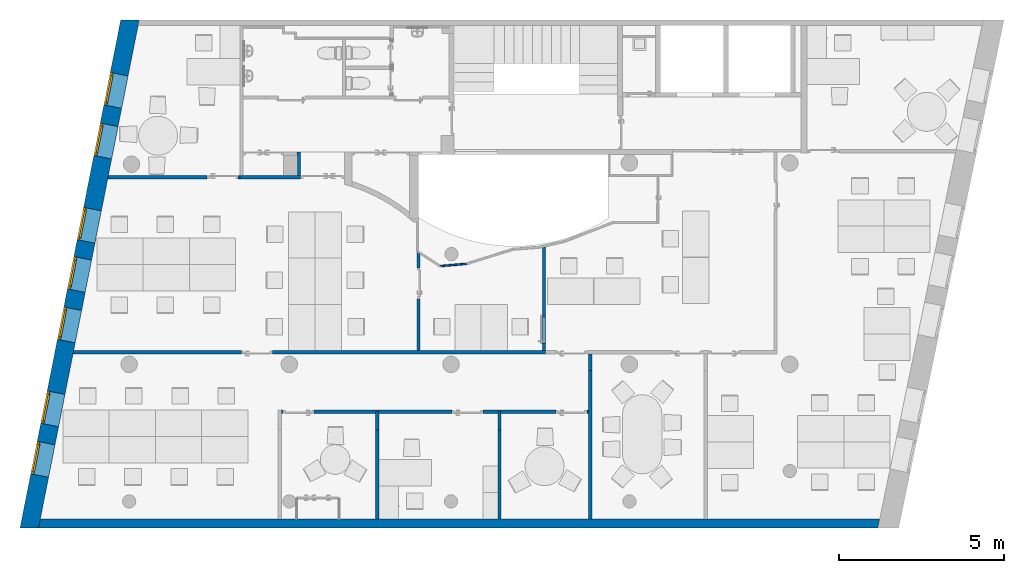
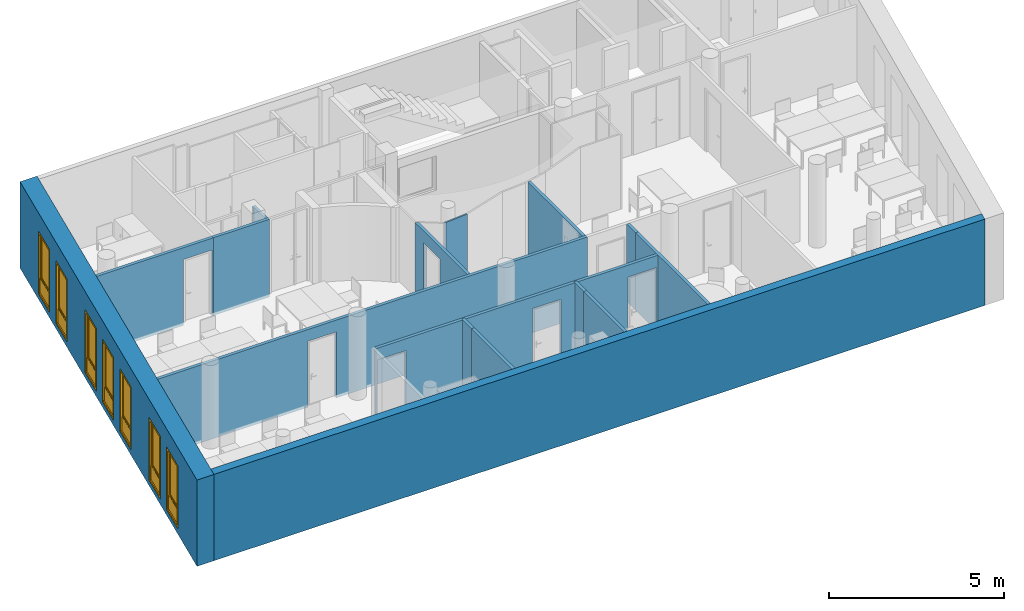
"""IFC4 building model written with IfcOpenShell, lengths in metres."""

from ifc_helpers import new_model, entity, si_unit, converted_unit, derived_unit, frame, frame_2d, origin, origin_with_axes, place, context, subcontext, project, spatial, polyline, rectangle, outline, extrude, closed_shell, open_shell, surface_model, source, transform, mapped, material, layer, layer_set, layer_usage, type_object, element, fill, save


model = new_model("IFC4")

# Units and contexts
model_context = context("Model", 3, precision=1e-05, world=origin())
body_context = subcontext(model_context, "Body", "Model", "MODEL_VIEW")
ifc_project = project(units=[si_unit("LENGTHUNIT", "METRE"), si_unit("AREAUNIT", "SQUARE_METRE"), si_unit("VOLUMEUNIT", "CUBIC_METRE"), si_unit("MASSUNIT", "GRAM", prefix="KILO"), converted_unit("PLANEANGLEUNIT", "DEGREE", entity("IfcPlaneAngleMeasure", 0.0174532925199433), si_unit("PLANEANGLEUNIT", "RADIAN"), dimensions=[0, 0, 0, 0, 0, 0, 0]), derived_unit("THERMALTRANSMITTANCEUNIT", [(si_unit("POWERUNIT", "WATT"), 1), (si_unit("THERMODYNAMICTEMPERATUREUNIT", "KELVIN"), -1), (si_unit("LENGTHUNIT", "METRE"), -2)]), derived_unit("VOLUMETRICFLOWRATEUNIT", [(si_unit("LENGTHUNIT", "METRE"), 3), (converted_unit("TIMEUNIT", "hour", entity("IfcTimeMeasure", 3600.0), si_unit("TIMEUNIT", "SECOND"), dimensions=[0, 0, 1, 0, 0, 0, 0]), -1), (si_unit("LENGTHUNIT", "METRE"), -1)])], contexts=[model_context])

# Building, storeys
building_placement = place(None, origin())
building = spatial("IfcBuilding", under=ifc_project, at=building_placement, Name="HABITATGE PLURIFAMILIAR", CompositionType="ELEMENT")
storey_1_placement = place(building_placement, frame((0.0, 0.0, 9.26)))
storey_1 = spatial("IfcBuildingStorey", under=building, at=storey_1_placement, Name="PLANTA SEGONA", CompositionType="ELEMENT", Elevation=9.26)
storey_2_placement = place(storey_1_placement, frame((0.0, 0.0, 6.25)))
storey_2 = spatial("IfcBuildingStorey", under=storey_1, at=storey_2_placement, Name="NOU", CompositionType="PARTIAL")

# Wall
ifc_material_1 = material()
ifc_layer_1 = layer(ifc_material_1, 0.10181412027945)
ifc_layer_set_1 = layer_set([ifc_layer_1])
ifc_layer_usage_1 = layer_usage(ifc_layer_set_1, "AXIS2", "POSITIVE", 0.0)
wall_1_placement = place(storey_2_placement, frame((406.176984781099, 23.5194598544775, -6.35), z_axis=(0.0, 0.0, 1.0), x_axis=(0.0, 1.0, 0.0)))
element("IfcWall", 1, at=wall_1_placement, inside=storey_2, material=ifc_layer_usage_1, Name="Evans P2", context=body_context, shape_type="SweptSolid", body=[
    extrude(outline(polyline([(0.0, -0.10181412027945), (0.709999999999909, -0.10181412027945), (0.709999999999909, 0.0), (0.625804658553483, -0.00181412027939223), (0.625804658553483, -0.0152980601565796), (0.0, -0.0152980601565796), (0.0, -0.10181412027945)])), frame((0.0, 0.10181412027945, 0.0), z_axis=(0.0, 0.0, 1.0), x_axis=(1.0, 0.0, 0.0)), (0.0, 0.0, 1.0), 2.71),
])

# Wall, opening
ifc_material_2 = material()
ifc_layer_2 = layer(ifc_material_2, 0.1)
ifc_layer_set_2 = layer_set([ifc_layer_2])
ifc_layer_usage_2 = layer_usage(ifc_layer_set_2, "AXIS2", "POSITIVE", 0.0)
wall_2_placement = place(storey_2_placement, frame((404.336984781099, 23.4194598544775, -6.35)))
wall_2 = element("IfcWall", 2, at=wall_2_placement, inside=storey_2, material=ifc_layer_usage_2, Name="Evans P2", context=body_context, shape_type="SweptSolid", body=[
    extrude(rectangle(XDim=3.17, YDim=0.1, at=frame_2d((1.585, 0.05), x_axis=(1.0, 0.0))), origin_with_axes(), (0.0, 0.0, 1.0), 2.71),
])
opening_1_placement = place(wall_2_placement, frame((1.84, 0.0, 0.0), z_axis=(0.0, 1.0, 0.0), x_axis=(0.0, 0.0, 1.0)))
element("IfcOpeningElement", 3, at=opening_1_placement, cuts=wall_2, Name="Vano puerta", ObjectType="Opening", context=body_context, shape_type="SweptSolid", body=[
    extrude(outline(polyline([(2.71, 1.33), (2.71, 0.0), (0.0, 0.0), (0.0, 1.33), (2.71, 1.33)])), origin_with_axes(), (0.0, 0.0, 1.0), 0.1),
])

# Walls
ifc_material_3 = material()
ifc_layer_3 = layer(ifc_material_3, 0.0499999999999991)
ifc_layer_set_3 = layer_set([ifc_layer_3])
ifc_layer_usage_3 = layer_usage(ifc_layer_set_3, "AXIS2", "POSITIVE", 0.0)
wall_3_placement = place(storey_2_placement, frame((410.466214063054, 20.756298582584, -6.35), z_axis=(0.0, 0.0, 1.0), x_axis=(0.99634967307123, 0.0853658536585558, 0.0)))
element("IfcWall", 4, at=wall_3_placement, inside=storey_2, material=ifc_layer_usage_3, Name="Mampara P2", context=body_context, shape_type="SweptSolid", body=[
    extrude(outline(polyline([(0.0663873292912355, -0.00568797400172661), (0.806276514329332, -0.00568797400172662), (0.800775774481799, 0.0443120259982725), (0.00379659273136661, 0.0443120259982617), (0.0663873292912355, -0.00568797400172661)])), frame((-0.0663873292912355, 0.00568797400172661, 0.0), z_axis=(0.0, 0.0, 1.0), x_axis=(1.0, 0.0, 0.0)), (0.0, 0.0, 1.0), 2.71),
])
ifc_material_4 = material()
ifc_layer_4 = layer(ifc_material_4, 0.28)
ifc_layer_set_4 = layer_set([ifc_layer_4])
ifc_layer_usage_4 = layer_usage(ifc_layer_set_4, "AXIS2", "POSITIVE", 0.0)
wall_4_placement = place(storey_2_placement, frame((398.24166797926, 12.8406121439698, -6.35)))
element("IfcWall", 5, at=wall_4_placement, inside=storey_2, material=ifc_layer_usage_4, Name="Mur P2", context=body_context, shape_type="SweptSolid", body=[
    extrude(outline(polyline([(0.0, 0.0), (25.4158141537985, 0.0), (25.4738412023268, 0.28), (0.0554765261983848, 0.28), (0.0, 0.0)])), origin_with_axes(), (0.0, 0.0, 1.0), 3.01),
])

# Wall, openings, doors
ifc_material_5 = material()
ifc_layer_5 = layer(ifc_material_5, 0.550000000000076)
ifc_layer_set_5 = layer_set([ifc_layer_5])
ifc_layer_usage_5 = layer_usage(ifc_layer_set_5, "AXIS2", "POSITIVE", 0.0)
wall_5_placement = place(storey_2_placement, frame((400.729735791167, 28.22824790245, -6.35), z_axis=(0.0, 0.0, 1.0), x_axis=(-0.194352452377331, -0.980931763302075, 0.0)))
wall_5 = element("IfcWall", 6, at=wall_5_placement, inside=storey_2, material=ifc_layer_usage_5, Name="Façana nord-oest P2", context=body_context, shape_type="SweptSolid", body=[
    extrude(outline(polyline([(-15.6867545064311, 0.0), (0.0, 0.0), (-0.108971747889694, 0.550000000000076), (-15.7957262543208, 0.549999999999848), (-15.6867545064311, 0.0)])), frame((15.6867545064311, 0.0, 0.0), z_axis=(0.0, 0.0, 1.0), x_axis=(1.0, 0.0, 0.0)), (0.0, 0.0, 1.0), 3.01),
])
opening_2_placement = place(wall_5_placement, frame((13.0068416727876, 0.0, 0.19), z_axis=(-9.9217603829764e-15, 1.0, 0.0), x_axis=(0.0, 0.0, 1.0)))
opening_2 = element("IfcOpeningElement", 7, at=opening_2_placement, cuts=wall_5, Name="Vano finestra P2", ObjectType="Opening", context=body_context, shape_type="SweptSolid", body=[
    extrude(outline(polyline([(2.19, 0.999999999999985), (2.19, 0.0), (0.0, 0.0), (0.0, 0.999999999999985), (2.19, 0.999999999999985)])), origin_with_axes(), (0.0, 0.0, 1.0), 0.550000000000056),
])
opening_3_placement = place(wall_5_placement, frame((11.4489821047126, 0.0, 0.19), z_axis=(-3.30725346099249e-15, 1.0, 0.0), x_axis=(0.0, 0.0, 1.0)))
opening_3 = element("IfcOpeningElement", 8, at=opening_3_placement, cuts=wall_5, Name="Vano finestra P2", ObjectType="Opening", context=body_context, shape_type="SweptSolid", body=[
    extrude(outline(polyline([(2.19, 0.999999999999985), (2.19, 0.0), (0.0, 0.0), (0.0, 0.999999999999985), (2.19, 0.999999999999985)])), origin_with_axes(), (0.0, 0.0, 1.0), 0.549999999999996),
])
opening_4_placement = place(wall_5_placement, frame((3.18033368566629, 0.0, 0.19), z_axis=(-8.26813365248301e-15, 1.0, 0.0), x_axis=(0.0, 0.0, 1.0)))
opening_4 = element("IfcOpeningElement", 9, at=opening_4_placement, cuts=wall_5, Name="Vano finestra P2", ObjectType="Opening", context=body_context, shape_type="SweptSolid", body=[
    extrude(outline(polyline([(2.19, 1.0), (2.19, 0.0), (0.0, 0.0), (0.0, 1.0), (2.19, 1.0)])), origin_with_axes(), (0.0, 0.0, 1.0), 0.549999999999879),
])
opening_5_placement = place(wall_5_placement, frame((8.85969008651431, 0.0, 0.19), z_axis=(-3.30725346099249e-15, 1.0, 0.0), x_axis=(0.0, 0.0, 1.0)))
opening_5 = element("IfcOpeningElement", 10, at=opening_5_placement, cuts=wall_5, Name="Vano finestra P2", ObjectType="Opening", context=body_context, shape_type="SweptSolid", body=[
    extrude(outline(polyline([(2.19, 1.0), (2.19, 0.0), (0.0, 0.0), (0.0, 1.0), (2.19, 1.0)])), origin_with_axes(), (0.0, 0.0, 1.0), 0.549999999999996),
])
opening_6_placement = place(wall_5_placement, frame((5.78205453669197, 0.0, 0.19), z_axis=(-1.6536267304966e-15, 1.0, 0.0), x_axis=(0.0, 0.0, 1.0)))
opening_6 = element("IfcOpeningElement", 11, at=opening_6_placement, cuts=wall_5, Name="Vano finestra P2", ObjectType="Opening", context=body_context, shape_type="SweptSolid", body=[
    extrude(outline(polyline([(2.19, 0.999999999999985), (2.19, 0.0), (0.0, 0.0), (0.0, 0.999999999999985), (2.19, 0.999999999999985)])), origin_with_axes(), (0.0, 0.0, 1.0), 0.549999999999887),
])
opening_7_placement = place(wall_5_placement, frame((1.61873293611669, 0.0, 0.19), z_axis=(-9.50835370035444e-15, 1.0, 0.0), x_axis=(0.0, 0.0, 1.0)))
opening_7 = element("IfcOpeningElement", 12, at=opening_7_placement, cuts=wall_5, Name="Vano finestra P2", ObjectType="Opening", context=body_context, shape_type="SweptSolid", body=[
    extrude(outline(polyline([(2.19, 1.0), (2.19, 0.0), (0.0, 0.0), (0.0, 1.0), (2.19, 1.0)])), origin_with_axes(), (0.0, 0.0, 1.0), 0.549999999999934),
])
opening_8_placement = place(wall_5_placement, frame((7.30183051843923, 0.0, 0.19), z_axis=(-3.30725346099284e-15, 1.0, 0.0), x_axis=(0.0, 0.0, 1.0)))
opening_8 = element("IfcOpeningElement", 13, at=opening_8_placement, cuts=wall_5, Name="Vano finestra P2", ObjectType="Opening", context=body_context, shape_type="SweptSolid", body=[
    extrude(outline(polyline([(2.19, 1.0), (2.19, 0.0), (0.0, 0.0), (0.0, 1.0), (2.19, 1.0)])), origin_with_axes(), (0.0, 0.0, 1.0), 0.549999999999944),
])
door_type_1 = type_object("IfcDoorType", Name="Finestra P2", OperationType="NOTDEFINED", ParameterTakesPrecedence=False, PredefinedType="DOOR")
shared_shape = source(origin_with_axes(), body_context, "Body", "SurfaceModel", [
    surface_model("IfcShellBasedSurfaceModel", [(0.0, 0.0700000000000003, 2.19), (0.0, 0.07, 0.0), (0.07, 0.07, 0.0), (0.07, 0.0700000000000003, 2.19), (0.0, 0.0, 0.0), (0.0, 0.0, 2.19), (0.07, 0.0, 2.19), (0.07, 0.0, 0.0)], [closed_shell([[[0, 1, 2, 3]], [[4, 5, 6, 7]], [[1, 0, 5, 4]], [[2, 1, 4, 7]], [[3, 2, 7, 6]], [[0, 3, 6, 5]]], orient=[[False], [False], [False], [False], [False], [False]])]),
    surface_model("IfcShellBasedSurfaceModel", [(0.929999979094, 0.0700000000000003, 2.19), (0.929999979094, 0.07, 0.0), (0.999999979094, 0.07, 0.0), (0.999999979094, 0.0700000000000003, 2.19), (0.929999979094, 0.0, 0.0), (0.929999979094, 0.0, 2.19), (0.999999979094, 0.0, 2.19), (0.999999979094, 0.0, 0.0)], [closed_shell([[[0, 1, 2, 3]], [[4, 5, 6, 7]], [[1, 0, 5, 4]], [[2, 1, 4, 7]], [[3, 2, 7, 6]], [[0, 3, 6, 5]]], orient=[[False], [False], [False], [False], [False], [False]])]),
    surface_model("IfcShellBasedSurfaceModel", [(0.07, 0.07, 0.07), (0.07, 0.07, 0.0), (0.929999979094, 0.07, 0.0), (0.929999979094, 0.07, 0.07), (0.07, 0.0, 0.0), (0.07, 0.0, 0.07), (0.929999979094, 0.0, 0.07), (0.929999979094, 0.0, 0.0)], [closed_shell([[[0, 1, 2, 3]], [[4, 5, 6, 7]], [[1, 0, 5, 4]], [[2, 1, 4, 7]], [[3, 2, 7, 6]], [[0, 3, 6, 5]]], orient=[[False], [False], [False], [False], [False], [False]])]),
    surface_model("IfcShellBasedSurfaceModel", [(0.07, 0.0700000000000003, 2.19), (0.07, 0.0700000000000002, 2.12), (0.929999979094, 0.0700000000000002, 2.12), (0.929999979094, 0.0700000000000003, 2.19), (0.07, 0.0, 2.12), (0.07, 0.0, 2.19), (0.929999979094, 0.0, 2.19), (0.929999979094, 0.0, 2.12)], [closed_shell([[[0, 1, 2, 3]], [[4, 5, 6, 7]], [[1, 0, 5, 4]], [[2, 1, 4, 7]], [[3, 2, 7, 6]], [[0, 3, 6, 5]]], orient=[[False], [False], [False], [False], [False], [False]])]),
    surface_model("IfcShellBasedSurfaceModel", [(0.07, 0.035, 0.07), (0.929999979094, 0.035, 0.07), (0.929999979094, 0.0350000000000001, 0.57), (0.07, 0.0350000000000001, 0.57)], [open_shell([[[0, 1, 2, 3]]], orient=[[False]])]),
    surface_model("IfcShellBasedSurfaceModel", [(0.05, 0.1, 2.14), (0.05, 0.1, 0.551), (0.1, 0.1, 0.551), (0.1, 0.1, 2.14), (0.05, 0.0500000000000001, 0.551), (0.05, 0.0500000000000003, 2.14), (0.1, 0.0500000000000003, 2.14), (0.1, 0.0500000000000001, 0.551)], [closed_shell([[[0, 1, 2, 3]], [[4, 5, 6, 7]], [[1, 0, 5, 4]], [[2, 1, 4, 7]], [[3, 2, 7, 6]], [[0, 3, 6, 5]]], orient=[[False], [False], [False], [False], [False], [False]])]),
    surface_model("IfcShellBasedSurfaceModel", [(0.899999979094, 0.1, 2.14), (0.899999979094, 0.1, 0.551), (0.949999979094, 0.1, 0.551), (0.949999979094, 0.1, 2.14), (0.899999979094, 0.0500000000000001, 0.551), (0.899999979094, 0.0500000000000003, 2.14), (0.949999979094, 0.0500000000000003, 2.14), (0.949999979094, 0.0500000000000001, 0.551)], [closed_shell([[[0, 1, 2, 3]], [[4, 5, 6, 7]], [[1, 0, 5, 4]], [[2, 1, 4, 7]], [[3, 2, 7, 6]], [[0, 3, 6, 5]]], orient=[[False], [False], [False], [False], [False], [False]])]),
    surface_model("IfcShellBasedSurfaceModel", [(0.1, 0.1, 0.601), (0.1, 0.1, 0.551), (0.899999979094, 0.1, 0.551), (0.899999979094, 0.1, 0.601), (0.1, 0.0500000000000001, 0.551), (0.1, 0.0500000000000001, 0.601), (0.899999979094, 0.0500000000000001, 0.601), (0.899999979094, 0.0500000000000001, 0.551)], [closed_shell([[[0, 1, 2, 3]], [[4, 5, 6, 7]], [[1, 0, 5, 4]], [[2, 1, 4, 7]], [[3, 2, 7, 6]], [[0, 3, 6, 5]]], orient=[[False], [False], [False], [False], [False], [False]])]),
    surface_model("IfcShellBasedSurfaceModel", [(0.1, 0.1, 2.14), (0.1, 0.1, 2.09), (0.899999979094, 0.1, 2.09), (0.899999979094, 0.1, 2.14), (0.1, 0.0500000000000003, 2.09), (0.1, 0.0500000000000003, 2.14), (0.899999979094, 0.0500000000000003, 2.14), (0.899999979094, 0.0500000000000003, 2.09)], [closed_shell([[[0, 1, 2, 3]], [[4, 5, 6, 7]], [[1, 0, 5, 4]], [[2, 1, 4, 7]], [[3, 2, 7, 6]], [[0, 3, 6, 5]]], orient=[[False], [False], [False], [False], [False], [False]])]),
    surface_model("IfcShellBasedSurfaceModel", [(0.1, 0.0750000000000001, 0.601), (0.899999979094, 0.0750000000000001, 0.601), (0.899999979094, 0.0750000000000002, 2.09), (0.1, 0.0750000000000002, 2.09)], [open_shell([[[0, 1, 2, 3]]], orient=[[False]])]),
])
door_1_placement = place(opening_2_placement, frame((0.0, 0.0, 0.0), z_axis=(1.0, 0.0, 0.0), x_axis=(0.0, 1.00000002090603, -5.77315972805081e-14)))
door_1 = element("IfcDoor", 14, at=door_1_placement, inside=storey_2, type_object=door_type_1, Name="Finestra P2", OverallHeight=2.19, OverallWidth=1.0, context=body_context, shape_type="MappedRepresentation", body=[
    mapped(shared_shape, transform((0.0, 0.0, 0.0), x_axis=(1.0, 0.0, 0.0), y_axis=(0.0, 1.0, 0.0), z_axis=(0.0, 0.0, 1.0), scale=1.00000002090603)),
])
fill(opening_2, door_1)
door_type_2 = type_object("IfcDoorType", Name="Finestra P2", OperationType="NOTDEFINED", ParameterTakesPrecedence=False, PredefinedType="DOOR")
door_2_placement = place(opening_3_placement, frame((0.0, 0.0, 0.0), z_axis=(1.0, 0.0, 0.0), x_axis=(0.0, 1.00000002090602, 3.94129173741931e-15)))
door_2 = element("IfcDoor", 15, at=door_2_placement, inside=storey_2, type_object=door_type_2, Name="Finestra P2", OverallHeight=2.19, OverallWidth=1.0, context=body_context, shape_type="MappedRepresentation", body=[
    mapped(shared_shape, transform((0.0, 0.0, 0.0), x_axis=(1.0, 0.0, 0.0), y_axis=(0.0, 1.0, 0.0), z_axis=(0.0, 0.0, 1.0), scale=1.00000002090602)),
])
fill(opening_3, door_2)
door_type_3 = type_object("IfcDoorType", Name="Finestra P2", OperationType="NOTDEFINED", ParameterTakesPrecedence=False, PredefinedType="DOOR")
door_3_placement = place(opening_4_placement, frame((0.0, 0.0, 0.0), z_axis=(1.0, 0.0, 0.0), x_axis=(0.0, 1.000000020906, -8.32667268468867e-17)))
door_3 = element("IfcDoor", 16, at=door_3_placement, inside=storey_2, type_object=door_type_3, Name="Finestra P2", OverallHeight=2.19, OverallWidth=1.0, context=body_context, shape_type="MappedRepresentation", body=[
    mapped(shared_shape, transform((0.0, 0.0, 0.0), x_axis=(1.0, 0.0, 0.0), y_axis=(0.0, 1.0, 0.0), z_axis=(0.0, 0.0, 1.0), scale=1.000000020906)),
])
fill(opening_4, door_3)
door_type_4 = type_object("IfcDoorType", Name="Finestra P2", OperationType="NOTDEFINED", ParameterTakesPrecedence=False, PredefinedType="DOOR")
door_4_placement = place(opening_5_placement, frame((0.0, 0.0, 0.0), z_axis=(1.0, 0.0, 0.0), x_axis=(0.0, 1.00000002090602, 4.85722573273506e-15)))
door_4 = element("IfcDoor", 17, at=door_4_placement, inside=storey_2, type_object=door_type_4, Name="Finestra P2", OverallHeight=2.19, OverallWidth=1.0, context=body_context, shape_type="MappedRepresentation", body=[
    mapped(shared_shape, transform((0.0, 0.0, 0.0), x_axis=(1.0, 0.0, 0.0), y_axis=(0.0, 1.0, 0.0), z_axis=(0.0, 0.0, 1.0), scale=1.00000002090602)),
])
fill(opening_5, door_4)
door_type_5 = type_object("IfcDoorType", Name="Finestra P2", OperationType="NOTDEFINED", ParameterTakesPrecedence=False, PredefinedType="DOOR")
door_5_placement = place(opening_6_placement, frame((0.0, 0.0, 0.0), z_axis=(1.0, 0.0, 0.0), x_axis=(0.0, 1.000000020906, 3.80251385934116e-15)))
door_5 = element("IfcDoor", 18, at=door_5_placement, inside=storey_2, type_object=door_type_5, Name="Finestra P2", OverallHeight=2.19, OverallWidth=1.0, context=body_context, shape_type="MappedRepresentation", body=[
    mapped(shared_shape, transform((0.0, 0.0, 0.0), x_axis=(1.0, 0.0, 0.0), y_axis=(0.0, 1.0, 0.0), z_axis=(0.0, 0.0, 1.0), scale=1.000000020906)),
])
fill(opening_6, door_5)
door_type_6 = type_object("IfcDoorType", Name="Finestra P2", OperationType="NOTDEFINED", ParameterTakesPrecedence=False, PredefinedType="DOOR")
door_6_placement = place(opening_7_placement, frame((0.0, 0.0, 0.0), z_axis=(1.0, 0.0, 0.0), x_axis=(0.0, 1.00000002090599, -2.27595720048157e-15)))
door_6 = element("IfcDoor", 19, at=door_6_placement, inside=storey_2, type_object=door_type_6, Name="Finestra P2", OverallHeight=2.19, OverallWidth=1.0, context=body_context, shape_type="MappedRepresentation", body=[
    mapped(shared_shape, transform((0.0, 0.0, 0.0), x_axis=(1.0, 0.0, 0.0), y_axis=(0.0, 1.0, 0.0), z_axis=(0.0, 0.0, 1.0), scale=1.00000002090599)),
])
fill(opening_7, door_6)
door_type_7 = type_object("IfcDoorType", Name="Finestra P2", OperationType="NOTDEFINED", ParameterTakesPrecedence=False, PredefinedType="DOOR")
door_7_placement = place(opening_8_placement, frame((0.0, 0.0, 0.0), z_axis=(1.0, 0.0, 0.0), x_axis=(0.0, 1.000000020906, 4.82947015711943e-15)))
door_7 = element("IfcDoor", 20, at=door_7_placement, inside=storey_2, type_object=door_type_7, Name="Finestra P2", OverallHeight=2.19, OverallWidth=1.0, context=body_context, shape_type="MappedRepresentation", body=[
    mapped(shared_shape, transform((0.0, 0.0, 0.0), x_axis=(1.0, 0.0, 0.0), y_axis=(0.0, 1.0, 0.0), z_axis=(0.0, 0.0, 1.0), scale=1.000000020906)),
])
fill(opening_8, door_7)

# Wall, opening
ifc_material_6 = material()
ifc_layer_6 = layer(ifc_material_6, 0.1)
ifc_layer_set_6 = layer_set([ifc_layer_6])
ifc_layer_usage_6 = layer_usage(ifc_layer_set_6, "AXIS2", "POSITIVE", 0.0)
wall_6_placement = place(storey_2_placement, frame((399.291525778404, 18.1154678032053, -6.35)))
wall_6 = element("IfcWall", 21, at=wall_6_placement, inside=storey_2, material=ifc_layer_usage_6, Name="Evans P2", context=body_context, shape_type="SweptSolid", body=[
    extrude(outline(polyline([(0.0, 0.0), (14.3055970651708, 0.0), (14.3055970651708, 0.1), (0.0197848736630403, 0.1), (0.0, 0.0)])), origin_with_axes(), (0.0, 0.0, 1.0), 2.71),
])
opening_9_placement = place(wall_6_placement, frame((5.08985948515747, 0.0, 0.0), z_axis=(0.0, 1.0, 0.0), x_axis=(0.0, 0.0, 1.0)))
element("IfcOpeningElement", 22, at=opening_9_placement, cuts=wall_6, Name="Vano puerta", ObjectType="Opening", context=body_context, shape_type="SweptSolid", body=[
    extrude(outline(polyline([(2.3, 0.94), (2.3, 0.0), (0.0, 0.0), (0.0, 0.94), (2.3, 0.94)])), origin_with_axes(), (0.0, 0.0, 1.0), 0.1),
])

ifc_material_7 = material()
ifc_layer_7 = layer(ifc_material_7, 0.1)
ifc_layer_set_7 = layer_set([ifc_layer_7])
ifc_layer_usage_7 = layer_usage(ifc_layer_set_7, "AXIS2", "POSITIVE", 0.0)
wall_7_placement = place(storey_2_placement, frame((400.337659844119, 23.4194598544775, -6.35)))
wall_7 = element("IfcWall", 23, at=wall_7_placement, inside=storey_2, material=ifc_layer_usage_7, Name="Mampara P2", context=body_context, shape_type="SweptSolid", body=[
    extrude(outline(polyline([(0.0, 0.0), (3.99932493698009, 0.0), (3.99932493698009, 0.1), (0.0198130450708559, 0.1), (0.0, 0.0)])), origin_with_axes(), (0.0, 0.0, 1.0), 2.71),
])
opening_10_placement = place(wall_7_placement, frame((3.94932493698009, 0.1, 0.0), z_axis=(0.0, -1.0, 0.0), x_axis=(0.0, 0.0, 1.0)))
element("IfcOpeningElement", 24, at=opening_10_placement, cuts=wall_7, Name="Vano puerta", ObjectType="Opening", context=body_context, shape_type="SweptSolid", body=[
    extrude(outline(polyline([(2.3, 0.94), (2.3, 0.0), (0.0, 0.0), (0.0, 0.94), (2.3, 0.94)])), origin_with_axes(), (0.0, 0.0, 1.0), 0.1),
])

ifc_material_8 = material()
ifc_layer_8 = layer(ifc_material_8, 0.1)
ifc_layer_set_8 = layer_set([ifc_layer_8])
ifc_layer_usage_8 = layer_usage(ifc_layer_set_8, "AXIS2", "POSITIVE", 0.0)
wall_8_placement = place(storey_2_placement, frame((409.796984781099, 18.2154678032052, -6.35), z_axis=(0.0, 0.0, 1.0), x_axis=(0.0, 1.0, 0.0)))
wall_8 = element("IfcWall", 25, at=wall_8_placement, inside=storey_2, material=ifc_layer_usage_8, Name="Mampara P2", context=body_context, shape_type="SweptSolid", body=[
    extrude(outline(polyline([(0.0, -0.1), (2.92741102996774, -0.1), (2.99415874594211, 0.0), (0.0, 0.0), (0.0, -0.1)])), frame((0.0, 0.1, 0.0), z_axis=(0.0, 0.0, 1.0), x_axis=(1.0, 0.0, 0.0)), (0.0, 0.0, 1.0), 2.71),
])
opening_11_placement = place(wall_8_placement, frame((2.50879622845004, 0.1, 0.0), z_axis=(0.0, -1.0, 0.0), x_axis=(0.0, 0.0, 1.0)))
element("IfcOpeningElement", 26, at=opening_11_placement, cuts=wall_8, Name="Vano puerta", ObjectType="Opening", context=body_context, shape_type="SweptSolid", body=[
    extrude(outline(polyline([(2.3, 0.94), (2.3, 0.0), (0.0, 0.0), (0.0, 0.94), (2.3, 0.94)])), origin_with_axes(), (0.0, 0.0, 1.0), 0.1),
])

# Walls
ifc_material_9 = material()
ifc_layer_9 = layer(ifc_material_9, 0.1)
ifc_layer_set_9 = layer_set([ifc_layer_9])
ifc_layer_usage_9 = layer_usage(ifc_layer_set_9, "AXIS2", "POSITIVE", 0.0)
wall_9_placement = place(storey_2_placement, frame((414.997122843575, 13.1206121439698, -6.35), z_axis=(0.0, 0.0, 1.0), x_axis=(3.8849519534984e-14, 1.0, 0.0)))
element("IfcWall", 27, at=wall_9_placement, inside=storey_2, material=ifc_layer_usage_9, Name="Evans P2", context=body_context, shape_type="SweptSolid", body=[
    extrude(rectangle(XDim=4.49485565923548, YDim=0.1, at=frame_2d((2.24742782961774, 0.05), x_axis=(1.0, 0.0))), origin_with_axes(), (0.0, 0.0, 1.0), 2.71),
])
ifc_material_10 = material()
ifc_layer_10 = layer(ifc_material_10, 0.1)
ifc_layer_set_10 = layer_set([ifc_layer_10])
ifc_layer_usage_10 = layer_usage(ifc_layer_set_10, "AXIS2", "POSITIVE", 0.0)
wall_10_placement = place(storey_2_placement, frame((414.897122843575, 18.1154678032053, -6.35), z_axis=(0.0, 0.0, 1.0), x_axis=(0.0, -1.0, 0.0)))
element("IfcWall", 28, at=wall_10_placement, inside=storey_2, material=ifc_layer_usage_10, Name="Mampara P2", context=body_context, shape_type="SweptSolid", body=[
    extrude(rectangle(XDim=0.5, YDim=0.1, at=frame_2d((0.25, 0.05), x_axis=(1.0, 0.0))), origin_with_axes(), (0.0, 0.0, 1.0), 2.71),
])

# Wall, openings
ifc_material_11 = material()
ifc_layer_11 = layer(ifc_material_11, 0.1)
ifc_layer_set_11 = layer_set([ifc_layer_11])
ifc_layer_usage_11 = layer_usage(ifc_layer_set_11, "AXIS2", "POSITIVE", 0.0)
wall_11_placement = place(storey_2_placement, frame((414.897122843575, 16.4185729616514, -6.35), z_axis=(0.0, 0.0, 1.0), x_axis=(-1.0, 0.0, 0.0)))
wall_11 = element("IfcWall", 29, at=wall_11_placement, inside=storey_2, material=ifc_layer_usage_11, Name="Mampara P2", context=body_context, shape_type="SweptSolid", body=[
    extrude(outline(polyline([(-9.29780990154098, -0.1), (0.0, -0.1), (0.0, 0.0), (-2.85, 0.0), (-2.85, -0.0599999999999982), (-2.95, -0.0599999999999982), (-2.95, 0.0), (-6.55000000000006, 0.0), (-6.55000000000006, -0.0600000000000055), (-6.65000000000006, -0.0600000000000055), (-6.65000000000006, 0.0), (-9.29780990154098, 0.0), (-9.29780990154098, -0.1)])), frame((9.29780990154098, 0.1, 0.0), z_axis=(0.0, 0.0, 1.0), x_axis=(1.0, 0.0, 0.0)), (0.0, 0.0, 1.0), 2.71),
])
opening_12_placement = place(wall_11_placement, frame((0.05, 0.0, 0.0), z_axis=(0.0, 1.0, 0.0), x_axis=(0.0, 0.0, 1.0)))
element("IfcOpeningElement", 30, at=opening_12_placement, cuts=wall_11, Name="Vano puerta", ObjectType="Opening", context=body_context, shape_type="SweptSolid", body=[
    extrude(outline(polyline([(2.3, 0.94), (2.3, 0.0), (0.0, 0.0), (0.0, 0.94), (2.3, 0.94)])), origin_with_axes(), (0.0, 0.0, 1.0), 0.0999999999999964),
])
opening_13_placement = place(wall_11_placement, frame((3.19780990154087, 0.0, 0.0), z_axis=(0.0, 1.0, 0.0), x_axis=(0.0, 0.0, 1.0)))
element("IfcOpeningElement", 31, at=opening_13_placement, cuts=wall_11, Name="Vano puerta", ObjectType="Opening", context=body_context, shape_type="SweptSolid", body=[
    extrude(outline(polyline([(2.3, 0.94), (2.3, 0.0), (0.0, 0.0), (0.0, 0.94), (2.3, 0.94)])), origin_with_axes(), (0.0, 0.0, 1.0), 0.0999999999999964),
])
opening_14_placement = place(wall_11_placement, frame((8.30780990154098, 0.0, 0.0), z_axis=(0.0, 1.0, 0.0), x_axis=(0.0, 0.0, 1.0)))
element("IfcOpeningElement", 32, at=opening_14_placement, cuts=wall_11, Name="Vano puerta", ObjectType="Opening", context=body_context, shape_type="SweptSolid", body=[
    extrude(outline(polyline([(2.3, 0.94), (2.3, 0.0), (0.0, 0.0), (0.0, 0.94), (2.3, 0.94)])), origin_with_axes(), (0.0, 0.0, 1.0), 0.1),
])

# Walls
ifc_material_12 = material()
ifc_layer_12 = layer(ifc_material_12, 0.1)
ifc_layer_set_12 = layer_set([ifc_layer_12])
ifc_layer_usage_12 = layer_usage(ifc_layer_set_12, "AXIS2", "POSITIVE", 0.0)
wall_12_placement = place(storey_2_placement, frame((408.549312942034, 13.1206121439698, -6.35), z_axis=(0.0, 0.0, 1.0), x_axis=(0.0, 1.0, 0.0)))
element("IfcWall", 33, at=wall_12_placement, inside=storey_2, material=ifc_layer_usage_12, Name="Evans P2", context=body_context, shape_type="SweptSolid", body=[
    extrude(rectangle(XDim=2.69796081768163, YDim=0.1, at=frame_2d((1.34898040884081, 0.05), x_axis=(1.0, 0.0))), origin_with_axes(), (0.0, 0.0, 1.0), 2.71),
])
ifc_material_13 = material()
ifc_layer_13 = layer(ifc_material_13, 0.1)
ifc_layer_set_13 = layer_set([ifc_layer_13])
ifc_layer_usage_13 = layer_usage(ifc_layer_set_13, "AXIS2", "POSITIVE", 0.0)
wall_13_placement = place(storey_2_placement, frame((408.549312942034, 15.8185729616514, -6.35), z_axis=(0.0, 0.0, 1.0), x_axis=(0.0, 1.0, 0.0)))
element("IfcWall", 34, at=wall_13_placement, inside=storey_2, material=ifc_layer_usage_13, Name="Mampara P2", context=body_context, shape_type="SweptSolid", body=[
    extrude(rectangle(XDim=0.560000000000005, YDim=0.1, at=frame_2d((0.280000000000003, 0.05), x_axis=(1.0, 0.0))), origin_with_axes(), (0.0, 0.0, 1.0), 2.71),
])
ifc_material_14 = material()
ifc_layer_14 = layer(ifc_material_14, 0.1)
ifc_layer_set_14 = layer_set([ifc_layer_14])
ifc_layer_usage_14 = layer_usage(ifc_layer_set_14, "AXIS2", "POSITIVE", 0.0)
wall_14_placement = place(storey_2_placement, frame((412.249312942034, 13.1206121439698, -6.35), z_axis=(0.0, 0.0, 1.0), x_axis=(2.15746872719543e-14, 1.0, 0.0)))
element("IfcWall", 35, at=wall_14_placement, inside=storey_2, material=ifc_layer_usage_14, Name="Evans P2", context=body_context, shape_type="SweptSolid", body=[
    extrude(rectangle(XDim=2.69796081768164, YDim=0.1, at=frame_2d((1.34898040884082, 0.05), x_axis=(1.0, 0.0))), origin_with_axes(), (0.0, 0.0, 1.0), 2.71),
])
ifc_material_15 = material()
ifc_layer_15 = layer(ifc_material_15, 0.1)
ifc_layer_set_15 = layer_set([ifc_layer_15])
ifc_layer_usage_15 = layer_usage(ifc_layer_set_15, "AXIS2", "POSITIVE", 0.0)
wall_15_placement = place(storey_2_placement, frame((412.249312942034, 15.8185729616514, -6.35), z_axis=(0.0, 0.0, 1.0), x_axis=(0.0, 1.0, 0.0)))
element("IfcWall", 36, at=wall_15_placement, inside=storey_2, material=ifc_layer_usage_15, Name="Mampara P2", context=body_context, shape_type="SweptSolid", body=[
    extrude(rectangle(XDim=0.560000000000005, YDim=0.1, at=frame_2d((0.280000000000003, 0.05), x_axis=(1.0, 0.0))), origin_with_axes(), (0.0, 0.0, 1.0), 2.71),
])

# Wall, opening
ifc_material_16 = material()
ifc_layer_16 = layer(ifc_material_16, 0.0999999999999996)
ifc_layer_set_16 = layer_set([ifc_layer_16])
ifc_layer_usage_16 = layer_usage(ifc_layer_set_16, "AXIS2", "POSITIVE", 0.0)
wall_16_placement = place(storey_2_placement, frame((413.597122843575, 18.2154678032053, -6.35), z_axis=(0.0, 0.0, 1.0), x_axis=(1.84836920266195e-14, 1.0, 0.0)))
wall_16 = element("IfcWall", 37, at=wall_16_placement, inside=storey_2, material=ifc_layer_usage_16, Name="Evans P2", context=body_context, shape_type="SweptSolid", body=[
    extrude(outline(polyline([(0.0, -0.1), (3.14913605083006, -0.1), (3.12573573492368, 0.0), (0.0, 0.0), (0.0, -0.1)])), frame((0.0, 0.1, 0.0), z_axis=(0.0, 0.0, 1.0), x_axis=(1.0, 0.0, 0.0)), (0.0, 0.0, 1.0), 2.71),
])
opening_15_placement = place(wall_16_placement, frame((0.221301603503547, 0.0, 0.1), z_axis=(-1.84741111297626e-14, 1.0, 0.0), x_axis=(0.0, 0.0, 1.0)))
element("IfcOpeningElement", 38, at=opening_15_placement, cuts=wall_16, Name="Vano puerta", ObjectType="Opening", context=body_context, shape_type="SweptSolid", body=[
    extrude(outline(polyline([(2.01, 0.795770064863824), (2.01, 0.0), (0.0, 0.0), (0.0, 0.795770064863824), (2.01, 0.795770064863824)])), origin_with_axes(), (0.0, 0.0, 1.0), 0.1),
])

save(model, "model.ifc")
